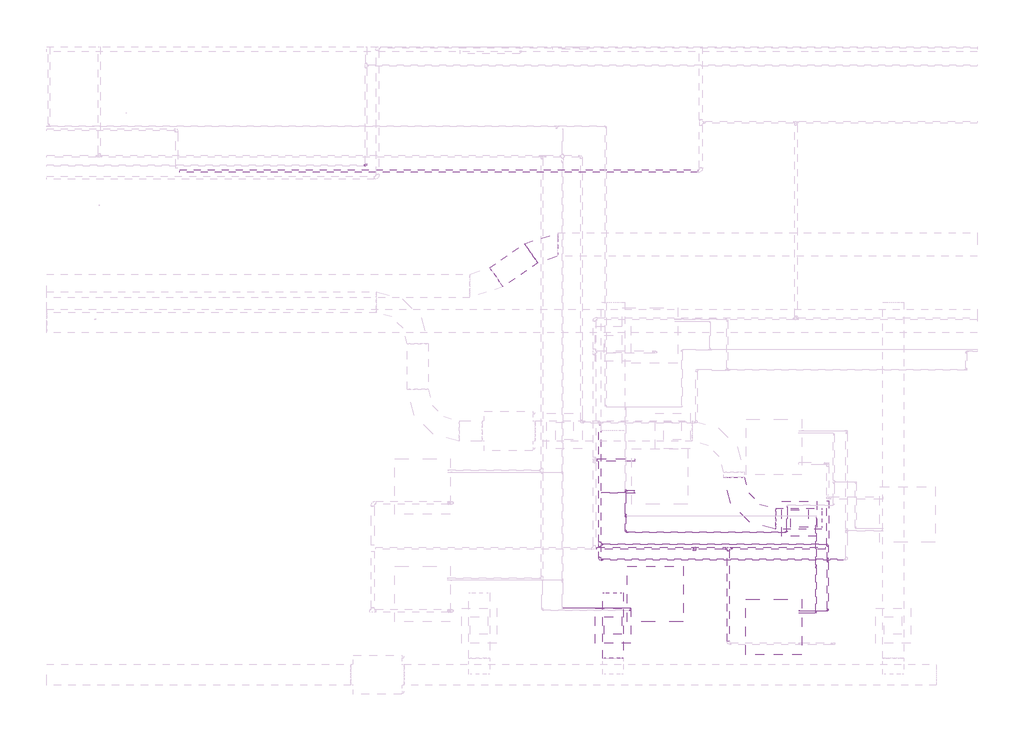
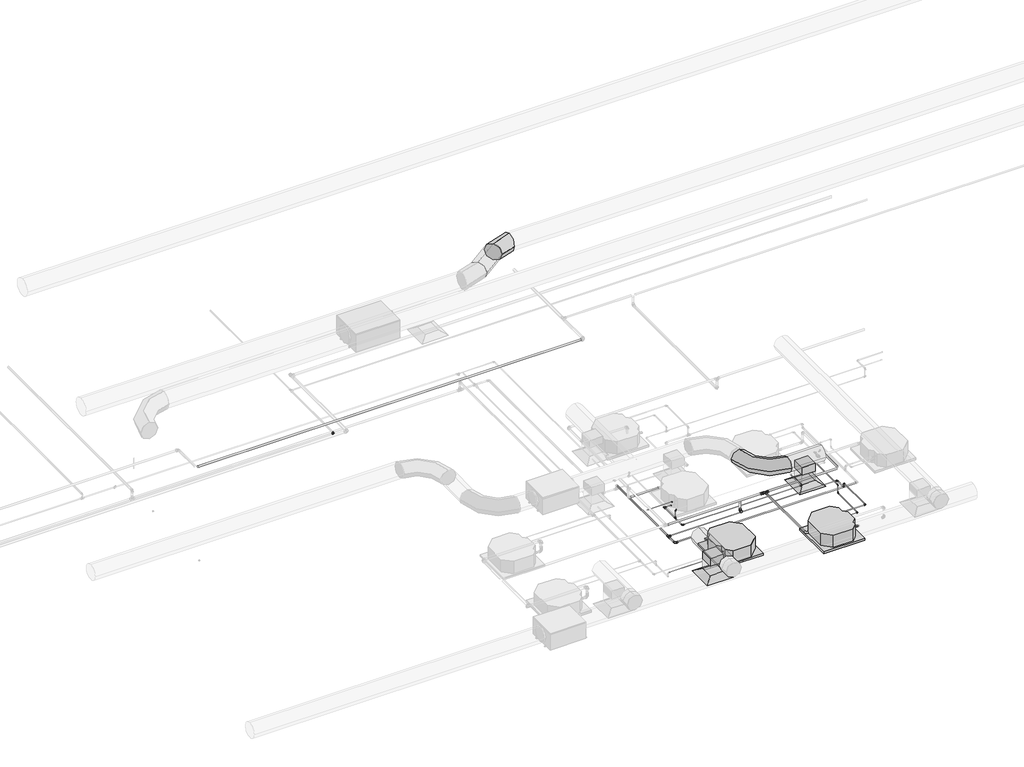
# One storey, part 6 of 21: 31 pipe fittings, 27 pipe segments, 5 duct segments, 4 duct fittings, 2 air terminals, 2 proxies.
"""IFC4 building model written with IfcOpenShell, lengths in millimetres."""

from ifc_helpers import new_model, si_unit, point, frame, frame_2d, origin, place, context, project, spatial, polyline, circle_curve, trimmed, segment, composite_curve, outline, extrude, transform, mapped, element, save
from components import air_terminal_ff221211, mechanical_equipment_53173f38, duct_fitting_550a0fe9, duct_fitting_2_d_f5f09e9f, duct_fitting_2_d_8456317d, pipe_fitting_0ad7e8bf, pipe_fitting_3e2a63ee, pipe_fitting_83e925b4, pipe_fitting_ec53ccd8, pipe_fitting_d7de274c, pipe_fitting_089e84c0, pipe_fitting_1806753b, pipe_fitting_e11027af, pipe_fitting_9b3d5eb9, pipe_fitting_442ec1e9, pipe_fitting_639c0f04, pipe_fitting_c900cfc2, pipe_fitting_16c020f5, pipe_fitting_b10472de, pipe_fitting_59d1f3e3, pipe_fitting_648138cd, pipe_fitting_b0e77d1d, pipe_fitting_c180495a, pipe_fitting_3e80353c, pipe_fitting_cbda5a7c

model = new_model("IFC4")

# Units and contexts
model_context = context("Model", 3, world=origin())
ifc_project = project(units=[si_unit("LENGTHUNIT", "METRE", prefix="MILLI")], contexts=[model_context])

# Site, building, storey
site = spatial("IfcSite", under=ifc_project)
building = spatial("IfcBuilding", under=site)
storey = spatial("IfcBuildingStorey", under=building, Name="Nível 1", Elevation=0.0)

# Air terminals
placement = place(None, origin())
air_terminal_shape = air_terminal_ff221211(model_context)
element("IfcAirTerminal", 1, ObjectType="M_Difusor de retorno : 600 x 600 Face 300 x 300 Conexão", at=placement, inside=storey, context=model_context, shape_type="MappedRepresentation", body=[
    mapped(air_terminal_shape, transform((11475.4372644, -6043.7697994, 3000.0), x_axis=(0.0, -1.0, 0.0), y_axis=(1.0, 0.0, 0.0), z_axis=(0.0, 0.0, 1.0))),
])
element("IfcAirTerminal", 2, ObjectType="M_Difusor de fornecimento : 600 x 600 Face 300 x 300 Conexão", at=placement, inside=storey, context=model_context, shape_type="MappedRepresentation", body=[
    mapped(air_terminal_shape, transform((8288.7294152, -7871.8680027, 3000.0), x_axis=(1.0, 0.0, 0.0), y_axis=(0.0, 1.0, 0.0), z_axis=(0.0, 0.0, 1.0))),
])

# Proxies
mechanical_equipment_shape = mechanical_equipment_53173f38(model_context)
element("IfcBuildingElementProxy", 3, Name="Midea_VRF_Indoor_4-way Cassette_MI-90(100,112,140)Q4_DHN1-D (2nd DC) : MI2-140Q4DHN1", ObjectType="Midea_VRF_Indoor_4-way Cassette_MI-90(100,112,140)Q4_DHN1-D (2nd DC) : MI2-140Q4DHN1", at=placement, inside=storey, context=model_context, shape_type="MappedRepresentation", body=[
    mapped(mechanical_equipment_shape, transform((9011.0193387, -7334.8952411, 3000.4424014), x_axis=(-1.0, 0.0, 0.0), y_axis=(0.0, -1.0, 0.0), z_axis=(0.0, 0.0, 1.0))),
])
element("IfcBuildingElementProxy", 4, Name="Midea_VRF_Indoor_4-way Cassette_MI-90(100,112,140)Q4_DHN1-D (2nd DC) : MI2-140Q4DHN1", ObjectType="Midea_VRF_Indoor_4-way Cassette_MI-90(100,112,140)Q4_DHN1-D (2nd DC) : MI2-140Q4DHN1", at=placement, inside=storey, context=model_context, shape_type="MappedRepresentation", body=[
    mapped(mechanical_equipment_shape, transform((11036.5680522, -7895.0008917, 3000.0), x_axis=(1.0, 0.0, 0.0), y_axis=(0.0, 1.0, 0.0), z_axis=(0.0, 0.0, 1.0))),
])

# Duct fittings
duct_fitting_shape = duct_fitting_550a0fe9(model_context)
element("IfcDuctFitting", 5, ObjectType="M_Encaixe de duto retangular : Padrão", at=placement, inside=storey, context=model_context, shape_type="MappedRepresentation", body=[
    mapped(duct_fitting_shape, transform((11475.4372644, -6043.7697994, 3427.5), x_axis=(0.0, 0.0, -1.0), y_axis=(-1.0, 0.0, 0.0), z_axis=(0.0, 1.0, 0.0))),
])
element("IfcDuctFitting", 6, ObjectType="M_Encaixe de duto retangular : Padrão", at=placement, inside=storey, context=model_context, shape_type="MappedRepresentation", body=[
    mapped(duct_fitting_shape, transform((8288.7294152, -7871.8680027, 3427.5), x_axis=(0.0, 0.0, -1.0), y_axis=(0.0, -1.0, 0.0), z_axis=(-1.0, 0.0, 0.0))),
])
duct_fitting_2_d_shape = duct_fitting_2_d_f5f09e9f(model_context)
element("IfcDuctFitting", 7, ObjectType="M_Cotovelo redondo : 2 D", at=placement, inside=storey, context=model_context, shape_type="MappedRepresentation", body=[
    mapped(duct_fitting_2_d_shape, transform((7094.2077756, -1359.3889752, 7501.0), x_axis=(-1.0, 0.0, 0.0), y_axis=(0.0, -1.0, 0.0), z_axis=(0.0, 0.0, 1.0))),
])
duct_fitting_2_d_2_shape = duct_fitting_2_d_8456317d(model_context)
element("IfcDuctFitting", 8, ObjectType="M_Cotovelo redondo : 2 D", at=placement, inside=storey, context=model_context, shape_type="MappedRepresentation", body=[
    mapped(duct_fitting_2_d_2_shape, transform((10357.1156645, -6043.7697994, 3605.0), x_axis=(0.0, -1.0, 0.0), y_axis=(1.0, 0.0, 0.0), z_axis=(0.0, 0.0, 1.0))),
])

# Duct segments
element("IfcDuctSegment", 9, ObjectType="Torneiras / Raio curto", at=placement, inside=storey, context=model_context, shape_type="SweptSolid", body=[
    extrude(outline(composite_curve([segment(trimmed(circle_curve(frame_2d((-6043.7697994, 3605.0)), 177.5), [point((-6221.2697994, 3605.0))], [point((-6043.7697994, 3782.5))], False, "CARTESIAN"), True, "CONTINUOUS"), segment(trimmed(circle_curve(frame_2d((-6043.7697994, 3605.0)), 177.5), [point((-6043.7697994, 3782.5))], [point((-5866.2697994, 3605.0))], False, "CARTESIAN"), True, "CONTINUOUS"), segment(trimmed(circle_curve(frame_2d((-6043.7697994, 3605.0)), 177.5), [point((-5866.2697994, 3605.0))], [point((-6043.7697994, 3427.5))], False, "CARTESIAN"), True, "CONTINUOUS"), segment(trimmed(circle_curve(frame_2d((-6043.7697994, 3605.0)), 177.5), [point((-6043.7697994, 3427.5))], [point((-6221.2697994, 3605.0))], False, "CARTESIAN"), True, "CONTINUOUS")], self_intersect=False)), frame((11067.1156645, 0.0, 0.0), z_axis=(1.0, 0.0, 0.0), x_axis=(0.0, 1.0, 0.0)), (0.0, 0.0, 1.0), 790.0),
])
element("IfcDuctSegment", 10, ObjectType="Torneiras / Raio curto", at=placement, inside=storey, context=model_context, shape_type="SweptSolid", body=[
    extrude(outline(composite_curve([segment(trimmed(circle_curve(frame_2d((3605.0, 8288.7294152)), 177.5), [point((3605.0, 8466.2294152))], [point((3782.5, 8288.7294152))], False, "CARTESIAN"), True, "CONTINUOUS"), segment(trimmed(circle_curve(frame_2d((3605.0, 8288.7294152)), 177.5), [point((3782.5, 8288.7294152))], [point((3605.0, 8111.2294152))], False, "CARTESIAN"), True, "CONTINUOUS"), segment(trimmed(circle_curve(frame_2d((3605.0, 8288.7294152)), 177.5), [point((3605.0, 8111.2294152))], [point((3427.5, 8288.7294152))], False, "CARTESIAN"), True, "CONTINUOUS"), segment(trimmed(circle_curve(frame_2d((3605.0, 8288.7294152)), 177.5), [point((3427.5, 8288.7294152))], [point((3605.0, 8466.2294152))], False, "CARTESIAN"), True, "CONTINUOUS")], self_intersect=False)), frame((0.0, -8432.3180027, 0.0), z_axis=(0.0, 1.0, 0.0), x_axis=(0.0, 0.0, 1.0)), (0.0, 0.0, 1.0), 1120.9),
])
element("IfcDuctSegment", 11, ObjectType="Raios cotovelos / torneiras", at=placement, inside=storey, context=model_context, shape_type="SweptSolid", body=[
    extrude(outline(polyline([(11625.4372644, -6193.7697994), (11325.4372644, -6193.7697994), (11325.4372644, -5893.7697994), (11625.4372644, -5893.7697994), (11625.4372644, -6193.7697994)])), frame((0.0, 0.0, 3101.6), z_axis=(0.0, 0.0, 1.0), x_axis=(1.0, 0.0, 0.0)), (0.0, 0.0, 1.0), 224.3),
])
element("IfcDuctSegment", 12, ObjectType="Raios cotovelos / torneiras", at=placement, inside=storey, context=model_context, shape_type="SweptSolid", body=[
    extrude(outline(polyline([(8438.7294152, -7721.8680027), (8438.7294152, -8021.8680027), (8138.7294152, -8021.8680027), (8138.7294152, -7721.8680027), (8438.7294152, -7721.8680027)])), frame((0.0, 0.0, 3101.6), z_axis=(0.0, 0.0, 1.0), x_axis=(1.0, 0.0, 0.0)), (0.0, 0.0, 1.0), 224.3),
])
element("IfcDuctSegment", 13, ObjectType="Torneiras / Raio curto", at=placement, inside=storey, context=model_context, shape_type="SweptSolid", body=[
    extrude(outline(composite_curve([segment(trimmed(circle_curve(frame_2d((0.0, -200.0)), 200.0), [point((-200.0, -200.0))], [point((0.0, 0.0))], False, "CARTESIAN"), True, "CONTINUOUS"), segment(trimmed(circle_curve(frame_2d((0.0, -200.0)), 200.0), [point((0.0, 0.0))], [point((200.0, -200.0))], False, "CARTESIAN"), True, "CONTINUOUS"), segment(trimmed(circle_curve(frame_2d((0.0, -200.0)), 200.0), [point((200.0, -200.0))], [point((0.0, -400.0))], False, "CARTESIAN"), True, "CONTINUOUS"), segment(trimmed(circle_curve(frame_2d((0.0, -200.0)), 200.0), [point((0.0, -400.0))], [point((-200.0, -200.0))], False, "CARTESIAN"), True, "CONTINUOUS")], self_intersect=False)), frame((6296.8318323, -1917.7176215, 7301.0), z_axis=(0.8191520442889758, 0.5735764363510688, 0.0), x_axis=(0.5735764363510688, -0.8191520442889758, 0.0)), (0.0, 0.0, 1.0), 721.1772582),
])

# Pipe fittings
pipe_fitting_shape = pipe_fitting_0ad7e8bf(model_context)
element("IfcPipeFitting", 14, ObjectType="Cotovelo - Soldado - CU : Padrão", at=placement, inside=storey, context=model_context, shape_type="MappedRepresentation", body=[
    mapped(pipe_fitting_shape, transform((8062.5318023, -6742.208828, 3152.3), x_axis=(0.0, -1.0, 0.0), y_axis=(1.0, 0.0, 0.0), z_axis=(0.0, 0.0, 1.0))),
])
pipe_fitting_2_shape = pipe_fitting_3e2a63ee(model_context)
element("IfcPipeFitting", 15, ObjectType="Tê - Soldado - CU : Padrão", at=placement, inside=storey, context=model_context, shape_type="MappedRepresentation", body=[
    mapped(pipe_fitting_2_shape, transform((10262.7783643, -6549.8952412, 3499.9970882), x_axis=(-0.9999999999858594, 0.0, 5.317997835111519e-06), y_axis=(0.0, 1.0, 0.0), z_axis=(-5.317997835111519e-06, 0.0, -0.9999999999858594))),
])
pipe_fitting_3_shape = pipe_fitting_83e925b4(model_context)
element("IfcPipeFitting", 16, ObjectType="Cotovelo - PVC - CW : Padrão", at=placement, inside=storey, context=model_context, shape_type="MappedRepresentation", body=[
    mapped(pipe_fitting_3_shape, transform((9683.5113973, -6549.8952409, 3252.3135689), x_axis=(0.0, 0.9999999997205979, -2.3639036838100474e-05), y_axis=(0.0, 2.3639036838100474e-05, 0.9999999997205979), z_axis=(1.0, 0.0, 0.0))),
])
pipe_fitting_4_shape = pipe_fitting_ec53ccd8(model_context)
element("IfcPipeFitting", 17, ObjectType="Bucha de redução reta - Soldada - CU : Padrão", at=placement, inside=storey, context=model_context, shape_type="MappedRepresentation", body=[
    mapped(pipe_fitting_4_shape, transform((10309.5283643, -6549.8952412, 3499.9968396), x_axis=(0.9999999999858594, 0.0, -5.317997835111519e-06), y_axis=(0.0, 1.0, 0.0), z_axis=(5.317997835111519e-06, 0.0, 0.9999999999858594))),
])
pipe_fitting_5_shape = pipe_fitting_d7de274c(model_context)
element("IfcPipeFitting", 18, ObjectType="Redutor de acoplamento - PVC - CW : Padrão", at=placement, inside=storey, context=model_context, shape_type="MappedRepresentation", body=[
    mapped(pipe_fitting_5_shape, transform((10216.0283643, -6549.8952412, 3499.9973368), x_axis=(-0.9999999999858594, 0.0, 5.317997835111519e-06), y_axis=(0.0, -1.0, 0.0), z_axis=(5.317997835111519e-06, 0.0, 0.9999999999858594))),
])
pipe_fitting_6_shape = pipe_fitting_089e84c0(model_context)
element("IfcPipeFitting", 19, ObjectType="Bucha de redução reta - Soldada - CU : Padrão", at=placement, inside=storey, context=model_context, shape_type="MappedRepresentation", body=[
    mapped(pipe_fitting_6_shape, transform((11761.5680489, -7631.1925198, 3146.8), x_axis=(0.0, 1.0, 0.0), y_axis=(-0.9999999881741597, 0.0, 0.00015379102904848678), z_axis=(0.00015379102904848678, 0.0, 0.9999999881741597))),
])
pipe_fitting_7_shape = pipe_fitting_1806753b(model_context)
element("IfcPipeFitting", 20, ObjectType="Cotovelo - Soldado - CU : Padrão", at=placement, inside=storey, context=model_context, shape_type="MappedRepresentation", body=[
    mapped(pipe_fitting_7_shape, transform((4067.8281628, -7.8240222, 3146.8), x_axis=(1.0, 0.0, 0.0), y_axis=(0.0, 1.0, 0.0), z_axis=(0.0, 0.0, 1.0))),
])
pipe_fitting_8_shape = pipe_fitting_e11027af(model_context)
element("IfcPipeFitting", 21, ObjectType="Tê - Soldado - CU : Padrão", at=placement, inside=storey, context=model_context, shape_type="MappedRepresentation", body=[
    mapped(pipe_fitting_8_shape, transform((8062.5318023, -6481.790078, 3152.3), x_axis=(0.0, 1.0, 0.0), y_axis=(-1.0, 0.0, 0.0), z_axis=(0.0, 0.0, 1.0))),
])
pipe_fitting_9_shape = pipe_fitting_9b3d5eb9(model_context)
element("IfcPipeFitting", 22, ObjectType="Bucha de redução reta - Soldada - CU : Padrão", at=placement, inside=storey, context=model_context, shape_type="MappedRepresentation", body=[
    mapped(pipe_fitting_9_shape, transform((8531.5104047, -6273.9203916, 3146.8), x_axis=(1.0, 0.0, 0.0), y_axis=(0.0, 1.0, 0.0), z_axis=(0.0, 0.0, 1.0))),
])
pipe_fitting_10_shape = pipe_fitting_442ec1e9(model_context)
element("IfcPipeFitting", 23, ObjectType="Bucha de redução reta - Soldada - CU : Padrão", at=placement, inside=storey, context=model_context, shape_type="MappedRepresentation", body=[
    mapped(pipe_fitting_10_shape, transform((8102.9793023, -6481.790078, 3152.3), x_axis=(1.0, 0.0, 0.0), y_axis=(0.0, 1.0, 0.0), z_axis=(0.0, 0.0, 1.0))),
])
pipe_fitting_11_shape = pipe_fitting_639c0f04(model_context)
element("IfcPipeFitting", 24, ObjectType="Bucha de redução reta - Soldada - CU : Padrão", at=placement, inside=storey, context=model_context, shape_type="MappedRepresentation", body=[
    mapped(pipe_fitting_11_shape, transform((8103.8968023, -6742.208828, 3152.3), x_axis=(1.0, 0.0, 0.0), y_axis=(0.0, 1.0, 0.0), z_axis=(0.0, 0.0, 1.0))),
])
pipe_fitting_12_shape = pipe_fitting_c900cfc2(model_context)
element("IfcPipeFitting", 25, ObjectType="Bucha de redução reta - Soldada - CU : Padrão", at=placement, inside=storey, context=model_context, shape_type="MappedRepresentation", body=[
    mapped(pipe_fitting_12_shape, transform((8586.0193387, -7608.1060547, 3252.3085101), x_axis=(-1.0, 0.0, 0.0), y_axis=(0.0, -1.0, 0.0), z_axis=(0.0, 0.0, 1.0))),
])
element("IfcPipeFitting", 26, ObjectType="Bucha de redução reta - Soldada - CU : Padrão", at=placement, inside=storey, context=model_context, shape_type="MappedRepresentation", body=[
    mapped(pipe_fitting_12_shape, transform((8662.5318022, -5598.7799626, 3252.3085101), x_axis=(-1.0, 0.0, 0.0), y_axis=(0.0, -1.0, 0.0), z_axis=(0.0, 0.0, 1.0))),
])
element("IfcPipeFitting", 27, ObjectType="Bucha de redução reta - Soldada - CU : Padrão", at=placement, inside=storey, context=model_context, shape_type="MappedRepresentation", body=[
    mapped(pipe_fitting_12_shape, transform((11461.5680522, -7621.790078, 3252.3085101), x_axis=(1.0, 0.0, 0.0), y_axis=(0.0, 1.0, 0.0), z_axis=(0.0, 0.0, 1.0))),
])
pipe_fitting_13_shape = pipe_fitting_16c020f5(model_context)
element("IfcPipeFitting", 28, ObjectType="Cotovelo - Soldado - CU : Padrão", at=placement, inside=storey, context=model_context, shape_type="MappedRepresentation", body=[
    mapped(pipe_fitting_13_shape, transform((11961.5680521, -6481.790078, 3152.3), x_axis=(0.0, 1.0, 0.0), y_axis=(-1.0, 0.0, 0.0), z_axis=(0.0, 0.0, 1.0))),
])
element("IfcPipeFitting", 29, ObjectType="Cotovelo - Soldado - CU : Padrão", at=placement, inside=storey, context=model_context, shape_type="MappedRepresentation", body=[
    mapped(pipe_fitting_13_shape, transform((11961.5680521, -6751.657428, 3152.3), x_axis=(0.0, -1.0, 0.0), y_axis=(0.0, 0.0, 1.0), z_axis=(-1.0, 0.0, 0.0))),
])
element("IfcPipeFitting", 30, ObjectType="Cotovelo - Soldado - CU : Padrão", at=placement, inside=storey, context=model_context, shape_type="MappedRepresentation", body=[
    mapped(pipe_fitting_13_shape, transform((11961.5680521, -7621.790078, 3252.3), x_axis=(0.9999999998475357, 0.0, -1.7462211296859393e-05), y_axis=(0.0, 1.0000000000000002, 0.0), z_axis=(1.7462211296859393e-05, 0.0, 0.9999999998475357))),
])
element("IfcPipeFitting", 31, ObjectType="Cotovelo - Soldado - CU : Padrão", at=placement, inside=storey, context=model_context, shape_type="MappedRepresentation", body=[
    mapped(pipe_fitting_13_shape, transform((11961.5680521, -6751.657428, 3252.3), x_axis=(0.0, 0.0, 1.0), y_axis=(0.0, -1.0, 0.0), z_axis=(1.0, 0.0, 0.0))),
])
element("IfcPipeFitting", 32, ObjectType="Cotovelo - Soldado - CU : Padrão", at=placement, inside=storey, context=model_context, shape_type="MappedRepresentation", body=[
    mapped(pipe_fitting_13_shape, transform((8502.5318047, -6273.9203916, 3146.8), x_axis=(0.0, -1.0, 0.0), y_axis=(1.0, 0.0, 0.0), z_axis=(0.0, 0.0, 1.0))),
])
pipe_fitting_14_shape = pipe_fitting_b10472de(model_context)
element("IfcPipeFitting", 33, ObjectType="Tê - Soldado - CU : Padrão", at=placement, inside=storey, context=model_context, shape_type="MappedRepresentation", body=[
    mapped(pipe_fitting_14_shape, transform((8502.5318047, -5995.5925198, 3146.8), x_axis=(0.0, 1.0, 0.0), y_axis=(0.0, 0.0, -1.0), z_axis=(-1.0, 0.0, 0.0))),
])
element("IfcPipeFitting", 34, ObjectType="Tê - Soldado - CU : Padrão", at=placement, inside=storey, context=model_context, shape_type="MappedRepresentation", body=[
    mapped(pipe_fitting_14_shape, transform((8502.5318047, -5564.9775208, 3146.8), x_axis=(0.0, 1.0, 0.0), y_axis=(-0.9999999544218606, 0.0, -0.0003019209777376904), z_axis=(-0.0003019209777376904, 0.0, 0.9999999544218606))),
])
pipe_fitting_15_shape = pipe_fitting_59d1f3e3(model_context)
element("IfcPipeFitting", 35, ObjectType="Bucha de redução reta - Soldada - CU : Padrão", at=placement, inside=storey, context=model_context, shape_type="MappedRepresentation", body=[
    mapped(pipe_fitting_15_shape, transform((8662.5318022, -5564.9775208, 3146.8446487), x_axis=(-1.0, 0.0, 0.0), y_axis=(0.0, -1.0, 0.0), z_axis=(0.0, 0.0, 1.0))),
])
pipe_fitting_16_shape = pipe_fitting_648138cd(model_context)
element("IfcPipeFitting", 36, ObjectType="Cotovelo - Soldado - CU : Padrão", at=placement, inside=storey, context=model_context, shape_type="MappedRepresentation", body=[
    mapped(pipe_fitting_16_shape, transform((11761.5680489, -6855.5925198, 3146.8), x_axis=(0.0, 1.0, 0.0), y_axis=(0.0, 0.0, 1.0), z_axis=(1.0, 0.0, 0.0))),
])
element("IfcPipeFitting", 37, ObjectType="Cotovelo - Soldado - CU : Padrão", at=placement, inside=storey, context=model_context, shape_type="MappedRepresentation", body=[
    mapped(pipe_fitting_16_shape, transform((11761.5680489, -6855.5925198, 3346.8), x_axis=(0.0, 0.0, 1.0), y_axis=(0.0, 1.0, 0.0), z_axis=(-1.0, 0.0, 0.0))),
])
element("IfcPipeFitting", 38, ObjectType="Cotovelo - Soldado - CU : Padrão", at=placement, inside=storey, context=model_context, shape_type="MappedRepresentation", body=[
    mapped(pipe_fitting_16_shape, transform((8502.5318047, -5995.5925198, 3346.8), x_axis=(0.0, 0.0, 1.0), y_axis=(1.0, 0.0, 0.0), z_axis=(0.0, 1.0, 0.0))),
])
pipe_fitting_17_shape = pipe_fitting_b0e77d1d(model_context)
element("IfcPipeFitting", 39, ObjectType="Bucha de redução reta - Soldada - CU : Padrão", at=placement, inside=storey, context=model_context, shape_type="MappedRepresentation", body=[
    mapped(pipe_fitting_17_shape, transform((8586.0193387, -7574.3036129, 3147.2870501), x_axis=(-1.0, 0.0, 0.0), y_axis=(0.0, -1.0, 0.0), z_axis=(0.0, 0.0, 1.0))),
])
element("IfcPipeFitting", 40, ObjectType="Bucha de redução reta - Soldada - CU : Padrão", at=placement, inside=storey, context=model_context, shape_type="MappedRepresentation", body=[
    mapped(pipe_fitting_17_shape, transform((11461.5680522, -7655.5925198, 3146.8446487), x_axis=(1.0, 0.0, 0.0), y_axis=(0.0, 1.0, 0.0), z_axis=(0.0, 0.0, 1.0))),
])
pipe_fitting_18_shape = pipe_fitting_c180495a(model_context)
element("IfcPipeFitting", 41, ObjectType="Cotovelo - Soldado - CU : Padrão", at=placement, inside=storey, context=model_context, shape_type="MappedRepresentation", body=[
    mapped(pipe_fitting_18_shape, transform((11761.5680489, -7655.5925198, 3146.8), x_axis=(0.9999999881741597, 0.0, -0.00015379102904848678), y_axis=(0.0, 1.0000000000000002, 0.0), z_axis=(0.00015379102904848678, 0.0, 0.9999999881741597))),
])
pipe_fitting_19_shape = pipe_fitting_3e80353c(model_context)
element("IfcPipeFitting", 42, ObjectType="Cotovelo - Soldado - CU : Padrão", at=placement, inside=storey, context=model_context, shape_type="MappedRepresentation", body=[
    mapped(pipe_fitting_19_shape, transform((11262.5318047, -6273.9203916, 3146.8), x_axis=(1.0, 0.0, 0.0), y_axis=(0.0, 1.0, 0.0), z_axis=(0.0, 0.0, 1.0))),
])
pipe_fitting_20_shape = pipe_fitting_cbda5a7c(model_context)
element("IfcPipeFitting", 43, ObjectType="Bucha de redução reta - Soldada - CU : Padrão", at=placement, inside=storey, context=model_context, shape_type="MappedRepresentation", body=[
    mapped(pipe_fitting_20_shape, transform((8502.5318047, -5995.5925198, 3174.3847), x_axis=(0.0, 0.0, 1.0), y_axis=(0.0, 1.0, 0.0), z_axis=(-1.0, 0.0, 0.0))),
])
element("IfcPipeFitting", 44, ObjectType="Bucha de redução reta - Soldada - CU : Padrão", at=placement, inside=storey, context=model_context, shape_type="MappedRepresentation", body=[
    mapped(pipe_fitting_20_shape, transform((8530.1165035, -5564.9775208, 3146.8083284), x_axis=(0.9999999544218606, 0.0, 0.0003019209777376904), y_axis=(0.0, 1.0000000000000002, 0.0), z_axis=(-0.0003019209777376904, 0.0, 0.9999999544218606))),
])

# Pipe segments
element("IfcPipeSegment", 45, ObjectType="Plástico", at=placement, inside=storey, context=model_context, shape_type="SweptSolid", body=[
    extrude(outline(composite_curve([segment(trimmed(circle_curve(frame_2d((0.0, -25.0)), 25.0), [point((-25.0, -25.0))], [point((0.0, 0.0))], False, "CARTESIAN"), True, "CONTINUOUS"), segment(trimmed(circle_curve(frame_2d((0.0, -25.0)), 25.0), [point((0.0, 0.0))], [point((25.0, -25.0))], False, "CARTESIAN"), True, "CONTINUOUS"), segment(trimmed(circle_curve(frame_2d((0.0, -25.0)), 25.0), [point((25.0, -25.0))], [point((0.0, -50.0))], False, "CARTESIAN"), True, "CONTINUOUS"), segment(trimmed(circle_curve(frame_2d((0.0, -25.0)), 25.0), [point((0.0, -50.0))], [point((-25.0, -25.0))], False, "CARTESIAN"), True, "CONTINUOUS")], self_intersect=False)), frame((9736.3002901, -98.5799867, 3475.0026347), z_axis=(-0.9999999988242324, 0.0, 4.849263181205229e-05), x_axis=(0.0, 1.0, 0.0)), (0.0, 0.0, 1.0), 8859.6847137),
])
element("IfcPipeSegment", 46, ObjectType="Plástico", at=placement, inside=storey, context=model_context, shape_type="SweptSolid", body=[
    extrude(outline(composite_curve([segment(trimmed(circle_curve(frame_2d((9683.5113973, -6549.8952409)), 20.0), [point((9703.5113973, -6549.8952409))], [point((9683.5113973, -6569.8952409))], False, "CARTESIAN"), True, "CONTINUOUS"), segment(trimmed(circle_curve(frame_2d((9683.5113973, -6549.8952409)), 20.0), [point((9683.5113973, -6569.8952409))], [point((9663.5113973, -6549.8952409))], False, "CARTESIAN"), True, "CONTINUOUS"), segment(trimmed(circle_curve(frame_2d((9683.5113973, -6549.8952409)), 20.0), [point((9663.5113973, -6549.8952409))], [point((9683.5113973, -6529.8952409))], False, "CARTESIAN"), True, "CONTINUOUS"), segment(trimmed(circle_curve(frame_2d((9683.5113973, -6549.8952409)), 20.0), [point((9683.5113973, -6529.8952409))], [point((9703.5113973, -6549.8952409))], False, "CARTESIAN"), True, "CONTINUOUS")], self_intersect=False)), frame((0.0, 0.0, 3297.3141126), z_axis=(0.0, 0.0, 1.0), x_axis=(1.0, 0.0, 0.0)), (0.0, 0.0, 1.0), 157.6858874),
])
element("IfcPipeSegment", 47, ObjectType="Plástico", at=placement, inside=storey, context=model_context, shape_type="SweptSolid", body=[
    extrude(outline(composite_curve([segment(trimmed(circle_curve(frame_2d((0.0, 20.0)), 20.0), [point((-20.0, 20.0))], [point((0.0, 40.0))], False, "CARTESIAN"), True, "CONTINUOUS"), segment(trimmed(circle_curve(frame_2d((0.0, 20.0)), 20.0), [point((0.0, 40.0))], [point((20.0, 20.0))], False, "CARTESIAN"), True, "CONTINUOUS"), segment(trimmed(circle_curve(frame_2d((0.0, 20.0)), 20.0), [point((20.0, 20.0))], [point((0.0, 0.0))], False, "CARTESIAN"), True, "CONTINUOUS"), segment(trimmed(circle_curve(frame_2d((0.0, 20.0)), 20.0), [point((0.0, 0.0))], [point((-20.0, 20.0))], False, "CARTESIAN"), True, "CONTINUOUS")], self_intersect=False)), frame((10329.7684043, -6549.8952412, 3479.9967319), z_axis=(0.9999999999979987, 0.0, 2.0006367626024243e-06), x_axis=(0.0, 1.0, 0.0)), (0.0, 0.0, 1.0), 1587.56),
])
element("IfcPipeSegment", 48, ObjectType="Tubos de cobre HVAC", at=placement, inside=storey, context=model_context, shape_type="SweptSolid", body=[
    extrude(outline(composite_curve([segment(trimmed(circle_curve(frame_2d((3499.9970882, 10262.7783643)), 17.5), [point((3499.9970882, 10245.2783643))], [point((3482.4970882, 10262.7783643))], False, "CARTESIAN"), True, "CONTINUOUS"), segment(trimmed(circle_curve(frame_2d((3499.9970882, 10262.7783643)), 17.5), [point((3482.4970882, 10262.7783643))], [point((3499.9970882, 10280.2783643))], False, "CARTESIAN"), True, "CONTINUOUS"), segment(trimmed(circle_curve(frame_2d((3499.9970882, 10262.7783643)), 17.5), [point((3499.9970882, 10280.2783643))], [point((3517.4970882, 10262.7783643))], False, "CARTESIAN"), True, "CONTINUOUS"), segment(trimmed(circle_curve(frame_2d((3499.9970882, 10262.7783643)), 17.5), [point((3517.4970882, 10262.7783643))], [point((3499.9970882, 10245.2783643))], False, "CARTESIAN"), True, "CONTINUOUS")], self_intersect=False)), frame((0.0, -8138.4008917, 0.0), z_axis=(0.0, 1.0, 0.0), x_axis=(0.0, 0.0, 1.0)), (0.0, 0.0, 1.0), 1543.0056505),
])
element("IfcPipeSegment", 49, ObjectType="Plástico", at=placement, inside=storey, context=model_context, shape_type="SweptSolid", body=[
    extrude(outline(composite_curve([segment(trimmed(circle_curve(frame_2d((0.0, -20.0)), 20.0), [point((-20.0, -20.0))], [point((0.0, 0.0))], False, "CARTESIAN"), True, "CONTINUOUS"), segment(trimmed(circle_curve(frame_2d((0.0, -20.0)), 20.0), [point((0.0, 0.0))], [point((20.0, -20.0))], False, "CARTESIAN"), True, "CONTINUOUS"), segment(trimmed(circle_curve(frame_2d((0.0, -20.0)), 20.0), [point((20.0, -20.0))], [point((0.0, -40.0))], False, "CARTESIAN"), True, "CONTINUOUS"), segment(trimmed(circle_curve(frame_2d((0.0, -20.0)), 20.0), [point((0.0, -40.0))], [point((-20.0, -20.0))], False, "CARTESIAN"), True, "CONTINUOUS")], self_intersect=False)), frame((10161.4622966, -6549.8952412, 3479.997627), z_axis=(-0.9999999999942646, 0.0, 3.3868586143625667e-06), x_axis=(0.0, 1.0, 0.0)), (0.0, 0.0, 1.0), 2147.9747719),
])
element("IfcPipeSegment", 50, ObjectType="Tubos de cobre HVAC", at=placement, inside=storey, context=model_context, shape_type="SweptSolid", body=[
    extrude(outline(composite_curve([segment(trimmed(circle_curve(frame_2d((3500.0, 11962.7783643)), 17.5), [point((3500.0, 11945.2783643))], [point((3482.5, 11962.7783643))], False, "CARTESIAN"), True, "CONTINUOUS"), segment(trimmed(circle_curve(frame_2d((3500.0, 11962.7783643)), 17.5), [point((3482.5, 11962.7783643))], [point((3500.0, 11980.2783643))], False, "CARTESIAN"), True, "CONTINUOUS"), segment(trimmed(circle_curve(frame_2d((3500.0, 11962.7783643)), 17.5), [point((3500.0, 11980.2783643))], [point((3517.5, 11962.7783643))], False, "CARTESIAN"), True, "CONTINUOUS"), segment(trimmed(circle_curve(frame_2d((3500.0, 11962.7783643)), 17.5), [point((3517.5, 11962.7783643))], [point((3500.0, 11945.2783643))], False, "CARTESIAN"), True, "CONTINUOUS")], self_intersect=False)), frame((0.0, -6503.9937412, 0.0), z_axis=(0.0, 1.0, 0.0), x_axis=(0.0, 0.0, 1.0)), (0.0, 0.0, 1.0), 768.7259132),
])
element("IfcPipeSegment", 51, ObjectType="Tubos de cobre HVAC", at=placement, inside=storey, context=model_context, shape_type="SweptSolid", body=[
    extrude(outline(composite_curve([segment(trimmed(circle_curve(frame_2d((0.0, -7.935)), 7.935), [point((-7.935, -7.935))], [point((0.0, 0.0))], False, "CARTESIAN"), True, "CONTINUOUS"), segment(trimmed(circle_curve(frame_2d((0.0, -7.935)), 7.935), [point((0.0, 0.0))], [point((7.935, -7.935))], False, "CARTESIAN"), True, "CONTINUOUS"), segment(trimmed(circle_curve(frame_2d((0.0, -7.935)), 7.935), [point((7.935, -7.935))], [point((0.0, -15.87))], False, "CARTESIAN"), True, "CONTINUOUS"), segment(trimmed(circle_curve(frame_2d((0.0, -7.935)), 7.935), [point((0.0, -15.87))], [point((-7.935, -7.935))], False, "CARTESIAN"), True, "CONTINUOUS")], self_intersect=False)), frame((8091.5105173, -5598.7799626, 3244.3654199), z_axis=(0.9999999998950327, 0.0, 1.448911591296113e-05), x_axis=(0.0, -1.0, 0.0)), (0.0, 0.0, 1.0), 558.3625),
])
element("IfcPipeSegment", 52, ObjectType="Tubos de cobre HVAC", at=placement, inside=storey, context=model_context, shape_type="SweptSolid", body=[
    extrude(outline(composite_curve([segment(trimmed(circle_curve(frame_2d((0.0, -4.76)), 4.76), [point((-4.76, -4.76))], [point((0.0, 0.0))], False, "CARTESIAN"), True, "CONTINUOUS"), segment(trimmed(circle_curve(frame_2d((0.0, -4.76)), 4.76), [point((0.0, 0.0))], [point((4.76, -4.76))], False, "CARTESIAN"), True, "CONTINUOUS"), segment(trimmed(circle_curve(frame_2d((0.0, -4.76)), 4.76), [point((4.76, -4.76))], [point((0.0, -9.52))], False, "CARTESIAN"), True, "CONTINUOUS"), segment(trimmed(circle_curve(frame_2d((0.0, -4.76)), 4.76), [point((0.0, -9.52))], [point((-4.76, -4.76))], False, "CARTESIAN"), True, "CONTINUOUS")], self_intersect=False)), frame((7449.1364906, -7574.3036129, 3142.4868391), z_axis=(0.9999999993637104, 0.0, 3.56732268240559e-05), x_axis=(0.0, -1.0, 0.0)), (0.0, 0.0, 1.0), 1127.2039186),
])
element("IfcPipeSegment", 53, ObjectType="Tubos de cobre HVAC", at=placement, inside=storey, context=model_context, shape_type="SweptSolid", body=[
    extrude(outline(composite_curve([segment(trimmed(circle_curve(frame_2d((0.0, -4.76)), 4.76), [point((-4.76, -4.76))], [point((0.0, 0.0))], False, "CARTESIAN"), True, "CONTINUOUS"), segment(trimmed(circle_curve(frame_2d((0.0, -4.76)), 4.76), [point((0.0, 0.0))], [point((4.76, -4.76))], False, "CARTESIAN"), True, "CONTINUOUS"), segment(trimmed(circle_curve(frame_2d((0.0, -4.76)), 4.76), [point((4.76, -4.76))], [point((0.0, -9.52))], False, "CARTESIAN"), True, "CONTINUOUS"), segment(trimmed(circle_curve(frame_2d((0.0, -4.76)), 4.76), [point((0.0, -9.52))], [point((-4.76, -4.76))], False, "CARTESIAN"), True, "CONTINUOUS")], self_intersect=False)), frame((8539.7923091, -5564.9775208, 3142.0512495), z_axis=(0.9999999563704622, 0.0, 0.0002953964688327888), x_axis=(0.0, -1.0, 0.0)), (0.0, 0.0, 1.0), 113.0665041),
])
element("IfcPipeSegment", 54, ObjectType="Tubos de cobre HVAC", at=placement, inside=storey, context=model_context, shape_type="SweptSolid", body=[
    extrude(outline(composite_curve([segment(trimmed(circle_curve(frame_2d((3146.8, 8502.5318047)), 7.935), [point((3146.8, 8494.5968047))], [point((3138.865, 8502.5318047))], False, "CARTESIAN"), True, "CONTINUOUS"), segment(trimmed(circle_curve(frame_2d((3146.8, 8502.5318047)), 7.935), [point((3138.865, 8502.5318047))], [point((3146.8, 8510.4668047))], False, "CARTESIAN"), True, "CONTINUOUS"), segment(trimmed(circle_curve(frame_2d((3146.8, 8502.5318047)), 7.935), [point((3146.8, 8510.4668047))], [point((3154.735, 8502.5318047))], False, "CARTESIAN"), True, "CONTINUOUS"), segment(trimmed(circle_curve(frame_2d((3146.8, 8502.5318047)), 7.935), [point((3154.735, 8502.5318047))], [point((3146.8, 8494.5968047))], False, "CARTESIAN"), True, "CONTINUOUS")], self_intersect=False)), frame((0.0, -6244.9417916, 0.0), z_axis=(0.0, 1.0, 0.0), x_axis=(0.0, 0.0, 1.0)), (0.0, 0.0, 1.0), 221.7139218),
])
element("IfcPipeSegment", 55, ObjectType="Tubos de cobre HVAC", at=placement, inside=storey, context=model_context, shape_type="SweptSolid", body=[
    extrude(outline(composite_curve([segment(trimmed(circle_curve(frame_2d((0.0, -7.935)), 7.935), [point((-7.935, -7.935))], [point((0.0, 0.0))], False, "CARTESIAN"), True, "CONTINUOUS"), segment(trimmed(circle_curve(frame_2d((0.0, -7.935)), 7.935), [point((0.0, 0.0))], [point((7.935, -7.935))], False, "CARTESIAN"), True, "CONTINUOUS"), segment(trimmed(circle_curve(frame_2d((0.0, -7.935)), 7.935), [point((7.935, -7.935))], [point((0.0, -15.87))], False, "CARTESIAN"), True, "CONTINUOUS"), segment(trimmed(circle_curve(frame_2d((0.0, -7.935)), 7.935), [point((0.0, -15.87))], [point((-7.935, -7.935))], False, "CARTESIAN"), True, "CONTINUOUS")], self_intersect=False)), frame((11932.5893136, -7621.790078, 3244.365506), z_axis=(-0.9999999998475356, 0.0, 1.7462211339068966e-05), x_axis=(0.0, 1.0, 0.0)), (0.0, 0.0, 1.0), 458.3625),
])
element("IfcPipeSegment", 56, ObjectType="Tubos de cobre HVAC", at=placement, inside=storey, context=model_context, shape_type="SweptSolid", body=[
    extrude(outline(composite_curve([segment(trimmed(circle_curve(frame_2d((3152.3, 11961.5680521)), 7.935), [point((3152.3, 11969.5030521))], [point((3160.235, 11961.5680521))], False, "CARTESIAN"), True, "CONTINUOUS"), segment(trimmed(circle_curve(frame_2d((3152.3, 11961.5680521)), 7.935), [point((3160.235, 11961.5680521))], [point((3152.3, 11953.6330521))], False, "CARTESIAN"), True, "CONTINUOUS"), segment(trimmed(circle_curve(frame_2d((3152.3, 11961.5680521)), 7.935), [point((3152.3, 11953.6330521))], [point((3144.365, 11961.5680521))], False, "CARTESIAN"), True, "CONTINUOUS"), segment(trimmed(circle_curve(frame_2d((3152.3, 11961.5680521)), 7.935), [point((3144.365, 11961.5680521))], [point((3152.3, 11969.5030521))], False, "CARTESIAN"), True, "CONTINUOUS")], self_intersect=False)), frame((0.0, -6722.678828, 0.0), z_axis=(0.0, 1.0, 0.0), x_axis=(0.0, 0.0, 1.0)), (0.0, 0.0, 1.0), 211.91015),
])
element("IfcPipeSegment", 57, ObjectType="Tubos de cobre HVAC", at=placement, inside=storey, context=model_context, shape_type="SweptSolid", body=[
    extrude(outline(composite_curve([segment(trimmed(circle_curve(frame_2d((-6481.790078, 3152.3)), 7.935), [point((-6473.855078, 3152.3))], [point((-6481.790078, 3144.365))], False, "CARTESIAN"), True, "CONTINUOUS"), segment(trimmed(circle_curve(frame_2d((-6481.790078, 3152.3)), 7.935), [point((-6481.790078, 3144.365))], [point((-6489.725078, 3152.3))], False, "CARTESIAN"), True, "CONTINUOUS"), segment(trimmed(circle_curve(frame_2d((-6481.790078, 3152.3)), 7.935), [point((-6489.725078, 3152.3))], [point((-6481.790078, 3160.235))], False, "CARTESIAN"), True, "CONTINUOUS"), segment(trimmed(circle_curve(frame_2d((-6481.790078, 3152.3)), 7.935), [point((-6481.790078, 3160.235))], [point((-6473.855078, 3152.3))], False, "CARTESIAN"), True, "CONTINUOUS")], self_intersect=False)), frame((8115.6382023, 0.0, 0.0), z_axis=(1.0, 0.0, 0.0), x_axis=(0.0, 1.0, 0.0)), (0.0, 0.0, 1.0), 3816.9512498),
])
element("IfcPipeSegment", 58, ObjectType="Tubos de cobre HVAC", at=placement, inside=storey, context=model_context, shape_type="SweptSolid", body=[
    extrude(outline(composite_curve([segment(trimmed(circle_curve(frame_2d((3152.3, 8062.5318023)), 15.875), [point((3152.3, 8046.6568023))], [point((3136.425, 8062.5318023))], False, "CARTESIAN"), True, "CONTINUOUS"), segment(trimmed(circle_curve(frame_2d((3152.3, 8062.5318023)), 15.875), [point((3136.425, 8062.5318023))], [point((3152.3, 8078.4068023))], False, "CARTESIAN"), True, "CONTINUOUS"), segment(trimmed(circle_curve(frame_2d((3152.3, 8062.5318023)), 15.875), [point((3152.3, 8078.4068023))], [point((3168.175, 8062.5318023))], False, "CARTESIAN"), True, "CONTINUOUS"), segment(trimmed(circle_curve(frame_2d((3152.3, 8062.5318023)), 15.875), [point((3168.175, 8062.5318023))], [point((3152.3, 8046.6568023))], False, "CARTESIAN"), True, "CONTINUOUS")], self_intersect=False)), frame((0.0, -6700.843828, 0.0), z_axis=(0.0, 1.0, 0.0), x_axis=(0.0, 0.0, 1.0)), (0.0, 0.0, 1.0), 178.635),
])
element("IfcPipeSegment", 59, ObjectType="Tubos de cobre HVAC", at=placement, inside=storey, context=model_context, shape_type="SweptSolid", body=[
    extrude(outline(composite_curve([segment(trimmed(circle_curve(frame_2d((3152.3, 8062.5318023)), 15.875), [point((3152.3, 8046.6568023))], [point((3136.425, 8062.5318023))], False, "CARTESIAN"), True, "CONTINUOUS"), segment(trimmed(circle_curve(frame_2d((3152.3, 8062.5318023)), 15.875), [point((3136.425, 8062.5318023))], [point((3152.3, 8078.4068023))], False, "CARTESIAN"), True, "CONTINUOUS"), segment(trimmed(circle_curve(frame_2d((3152.3, 8062.5318023)), 15.875), [point((3152.3, 8078.4068023))], [point((3168.175, 8062.5318023))], False, "CARTESIAN"), True, "CONTINUOUS"), segment(trimmed(circle_curve(frame_2d((3152.3, 8062.5318023)), 15.875), [point((3168.175, 8062.5318023))], [point((3152.3, 8046.6568023))], False, "CARTESIAN"), True, "CONTINUOUS")], self_intersect=False)), frame((0.0, -6441.371328, 0.0), z_axis=(0.0, 1.0, 0.0), x_axis=(0.0, 0.0, 1.0)), (0.0, 0.0, 1.0), 2000.9538654),
])
element("IfcPipeSegment", 60, ObjectType="Tubos de cobre HVAC", at=placement, inside=storey, context=model_context, shape_type="SweptSolid", body=[
    extrude(outline(composite_curve([segment(trimmed(circle_curve(frame_2d((-6742.208828, 3152.3)), 12.7), [point((-6754.908828, 3152.3))], [point((-6742.208828, 3165.0))], False, "CARTESIAN"), True, "CONTINUOUS"), segment(trimmed(circle_curve(frame_2d((-6742.208828, 3152.3)), 12.7), [point((-6742.208828, 3165.0))], [point((-6729.508828, 3152.3))], False, "CARTESIAN"), True, "CONTINUOUS"), segment(trimmed(circle_curve(frame_2d((-6742.208828, 3152.3)), 12.7), [point((-6729.508828, 3152.3))], [point((-6742.208828, 3139.6))], False, "CARTESIAN"), True, "CONTINUOUS"), segment(trimmed(circle_curve(frame_2d((-6742.208828, 3152.3)), 12.7), [point((-6742.208828, 3139.6))], [point((-6754.908828, 3152.3))], False, "CARTESIAN"), True, "CONTINUOUS")], self_intersect=False)), frame((8121.0348023, 0.0, 0.0), z_axis=(1.0, 0.0, 0.0), x_axis=(0.0, 1.0, 0.0)), (0.0, 0.0, 1.0), 4125.085),
])
element("IfcPipeSegment", 61, ObjectType="Tubos de cobre HVAC", at=placement, inside=storey, context=model_context, shape_type="SweptSolid", body=[
    extrude(outline(composite_curve([segment(trimmed(circle_curve(frame_2d((3252.3, 11961.5680521)), 7.935), [point((3252.3, 11969.5030521))], [point((3260.235, 11961.5680521))], False, "CARTESIAN"), True, "CONTINUOUS"), segment(trimmed(circle_curve(frame_2d((3252.3, 11961.5680521)), 7.935), [point((3260.235, 11961.5680521))], [point((3252.3, 11953.6330521))], False, "CARTESIAN"), True, "CONTINUOUS"), segment(trimmed(circle_curve(frame_2d((3252.3, 11961.5680521)), 7.935), [point((3252.3, 11953.6330521))], [point((3244.365, 11961.5680521))], False, "CARTESIAN"), True, "CONTINUOUS"), segment(trimmed(circle_curve(frame_2d((3252.3, 11961.5680521)), 7.935), [point((3244.365, 11961.5680521))], [point((3252.3, 11969.5030521))], False, "CARTESIAN"), True, "CONTINUOUS")], self_intersect=False)), frame((0.0, -7592.811478, 0.0), z_axis=(0.0, 1.0, 0.0), x_axis=(0.0, 0.0, 1.0)), (0.0, 0.0, 1.0), 812.17545),
])
element("IfcPipeSegment", 62, ObjectType="Tubos de cobre HVAC", at=placement, inside=storey, context=model_context, shape_type="SweptSolid", body=[
    extrude(outline(composite_curve([segment(trimmed(circle_curve(frame_2d((11961.5680521, -6751.657428)), 7.935), [point((11953.6330521, -6751.657428))], [point((11961.5680521, -6743.722428))], False, "CARTESIAN"), True, "CONTINUOUS"), segment(trimmed(circle_curve(frame_2d((11961.5680521, -6751.657428)), 7.935), [point((11961.5680521, -6743.722428))], [point((11969.5030521, -6751.657428))], False, "CARTESIAN"), True, "CONTINUOUS"), segment(trimmed(circle_curve(frame_2d((11961.5680521, -6751.657428)), 7.935), [point((11969.5030521, -6751.657428))], [point((11961.5680521, -6759.592428))], False, "CARTESIAN"), True, "CONTINUOUS"), segment(trimmed(circle_curve(frame_2d((11961.5680521, -6751.657428)), 7.935), [point((11961.5680521, -6759.592428))], [point((11953.6330521, -6751.657428))], False, "CARTESIAN"), True, "CONTINUOUS")], self_intersect=False)), frame((0.0, 0.0, 3181.2786), z_axis=(0.0, 0.0, 1.0), x_axis=(1.0, 0.0, 0.0)), (0.0, 0.0, 1.0), 42.0428),
])
element("IfcPipeSegment", 63, ObjectType="Tubos de cobre HVAC", at=placement, inside=storey, context=model_context, shape_type="SweptSolid", body=[
    extrude(outline(composite_curve([segment(trimmed(circle_curve(frame_2d((0.0, -4.76)), 4.76), [point((-4.76, -4.76))], [point((0.0, 0.0))], False, "CARTESIAN"), True, "CONTINUOUS"), segment(trimmed(circle_curve(frame_2d((0.0, -4.76)), 4.76), [point((0.0, 0.0))], [point((4.76, -4.76))], False, "CARTESIAN"), True, "CONTINUOUS"), segment(trimmed(circle_curve(frame_2d((0.0, -4.76)), 4.76), [point((4.76, -4.76))], [point((0.0, -9.5199999))], False, "CARTESIAN"), True, "CONTINUOUS"), segment(trimmed(circle_curve(frame_2d((0.0, -4.76)), 4.76), [point((0.0, -9.5199999))], [point((-4.76, -4.76))], False, "CARTESIAN"), True, "CONTINUOUS")], self_intersect=False)), frame((11737.1673171, -7655.5925198, 3142.0437526), z_axis=(-0.9999999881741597, 0.0, 0.00015379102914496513), x_axis=(0.0, 1.0, 0.0)), (0.0, 0.0, 1.0), 265.9209001),
])
element("IfcPipeSegment", 64, ObjectType="Tubos de cobre HVAC", at=placement, inside=storey, context=model_context, shape_type="SweptSolid", body=[
    extrude(outline(composite_curve([segment(trimmed(circle_curve(frame_2d((3146.8, 11761.5680489)), 4.76), [point((3146.8, 11766.3280489))], [point((3151.56, 11761.5680489))], False, "CARTESIAN"), True, "CONTINUOUS"), segment(trimmed(circle_curve(frame_2d((3146.8, 11761.5680489)), 4.76), [point((3151.56, 11761.5680489))], [point((3146.8, 11756.8080489))], False, "CARTESIAN"), True, "CONTINUOUS"), segment(trimmed(circle_curve(frame_2d((3146.8, 11761.5680489)), 4.76), [point((3146.8, 11756.8080489))], [point((3142.04, 11761.5680489))], False, "CARTESIAN"), True, "CONTINUOUS"), segment(trimmed(circle_curve(frame_2d((3146.8, 11761.5680489)), 4.76), [point((3142.04, 11761.5680489))], [point((3146.8, 11766.3280489))], False, "CARTESIAN"), True, "CONTINUOUS")], self_intersect=False)), frame((0.0, -7621.5181198, 0.0), z_axis=(0.0, 1.0, 0.0), x_axis=(0.0, 0.0, 1.0)), (0.0, 0.0, 1.0), 741.9),
])
element("IfcPipeSegment", 65, ObjectType="Tubos de cobre HVAC", at=placement, inside=storey, context=model_context, shape_type="SweptSolid", body=[
    extrude(outline(composite_curve([segment(trimmed(circle_curve(frame_2d((11761.5680489, -6855.5925198)), 4.76), [point((11756.8080489, -6855.5925198))], [point((11761.5680489, -6850.8325198))], False, "CARTESIAN"), True, "CONTINUOUS"), segment(trimmed(circle_curve(frame_2d((11761.5680489, -6855.5925198)), 4.76), [point((11761.5680489, -6850.8325198))], [point((11766.3280489, -6855.5925198))], False, "CARTESIAN"), True, "CONTINUOUS"), segment(trimmed(circle_curve(frame_2d((11761.5680489, -6855.5925198)), 4.76), [point((11766.3280489, -6855.5925198))], [point((11761.5680489, -6860.3525198))], False, "CARTESIAN"), True, "CONTINUOUS"), segment(trimmed(circle_curve(frame_2d((11761.5680489, -6855.5925198)), 4.76), [point((11761.5680489, -6860.3525198))], [point((11756.8080489, -6855.5925198))], False, "CARTESIAN"), True, "CONTINUOUS")], self_intersect=False)), frame((0.0, 0.0, 3170.8256), z_axis=(0.0, 0.0, 1.0), x_axis=(1.0, 0.0, 0.0)), (0.0, 0.0, 1.0), 151.9488),
])
element("IfcPipeSegment", 66, ObjectType="Tubos de cobre HVAC", at=placement, inside=storey, context=model_context, shape_type="SweptSolid", body=[
    extrude(outline(composite_curve([segment(trimmed(circle_curve(frame_2d((3346.8, 11761.5680489)), 4.76), [point((3346.8, 11766.3280489))], [point((3351.56, 11761.5680489))], False, "CARTESIAN"), True, "CONTINUOUS"), segment(trimmed(circle_curve(frame_2d((3346.8, 11761.5680489)), 4.76), [point((3351.56, 11761.5680489))], [point((3346.8, 11756.8080489))], False, "CARTESIAN"), True, "CONTINUOUS"), segment(trimmed(circle_curve(frame_2d((3346.8, 11761.5680489)), 4.76), [point((3346.8, 11756.8080489))], [point((3342.04, 11761.5680489))], False, "CARTESIAN"), True, "CONTINUOUS"), segment(trimmed(circle_curve(frame_2d((3346.8, 11761.5680489)), 4.76), [point((3342.04, 11761.5680489))], [point((3346.8, 11766.3280489))], False, "CARTESIAN"), True, "CONTINUOUS")], self_intersect=False)), frame((0.0, -6831.5669198, 0.0), z_axis=(0.0, 1.0, 0.0), x_axis=(0.0, 0.0, 1.0)), (0.0, 0.0, 1.0), 811.9488),
])
element("IfcPipeSegment", 67, ObjectType="Tubos de cobre HVAC", at=placement, inside=storey, context=model_context, shape_type="SweptSolid", body=[
    extrude(outline(composite_curve([segment(trimmed(circle_curve(frame_2d((8502.5318047, -5995.5925198)), 4.76), [point((8497.7718047, -5995.5925198))], [point((8502.5318047, -5990.8325198))], False, "CARTESIAN"), True, "CONTINUOUS"), segment(trimmed(circle_curve(frame_2d((8502.5318047, -5995.5925198)), 4.76), [point((8502.5318047, -5990.8325198))], [point((8507.2918047, -5995.5925198))], False, "CARTESIAN"), True, "CONTINUOUS"), segment(trimmed(circle_curve(frame_2d((8502.5318047, -5995.5925198)), 4.76), [point((8507.2918047, -5995.5925198))], [point((8502.5318047, -6000.3525198))], False, "CARTESIAN"), True, "CONTINUOUS"), segment(trimmed(circle_curve(frame_2d((8502.5318047, -5995.5925198)), 4.76), [point((8502.5318047, -6000.3525198))], [point((8497.7718047, -5995.5925198))], False, "CARTESIAN"), True, "CONTINUOUS")], self_intersect=False)), frame((0.0, 0.0, 3184.0591), z_axis=(0.0, 0.0, 1.0), x_axis=(1.0, 0.0, 0.0)), (0.0, 0.0, 1.0), 138.7153),
])
element("IfcPipeSegment", 68, ObjectType="Tubos de cobre HVAC", at=placement, inside=storey, context=model_context, shape_type="SweptSolid", body=[
    extrude(outline(composite_curve([segment(trimmed(circle_curve(frame_2d((-6273.9203916, 3146.8)), 6.35), [point((-6280.2703916, 3146.8))], [point((-6273.9203916, 3153.15))], False, "CARTESIAN"), True, "CONTINUOUS"), segment(trimmed(circle_curve(frame_2d((-6273.9203916, 3146.8)), 6.35), [point((-6273.9203916, 3153.15))], [point((-6267.5703916, 3146.8))], False, "CARTESIAN"), True, "CONTINUOUS"), segment(trimmed(circle_curve(frame_2d((-6273.9203916, 3146.8)), 6.35), [point((-6267.5703916, 3146.8))], [point((-6273.9203916, 3140.45))], False, "CARTESIAN"), True, "CONTINUOUS"), segment(trimmed(circle_curve(frame_2d((-6273.9203916, 3146.8)), 6.35), [point((-6273.9203916, 3140.45))], [point((-6280.2703916, 3146.8))], False, "CARTESIAN"), True, "CONTINUOUS")], self_intersect=False)), frame((8542.6794047, 0.0, 0.0), z_axis=(1.0, 0.0, 0.0), x_axis=(0.0, 1.0, 0.0)), (0.0, 0.0, 1.0), 2693.3464),
])
element("IfcPipeSegment", 69, ObjectType="Tubos de cobre HVAC", at=placement, inside=storey, context=model_context, shape_type="SweptSolid", body=[
    extrude(outline(composite_curve([segment(trimmed(circle_curve(frame_2d((3146.8, 11262.5318047)), 6.35), [point((3146.8, 11268.8818047))], [point((3153.15, 11262.5318047))], False, "CARTESIAN"), True, "CONTINUOUS"), segment(trimmed(circle_curve(frame_2d((3146.8, 11262.5318047)), 6.35), [point((3153.15, 11262.5318047))], [point((3146.8, 11256.1818047))], False, "CARTESIAN"), True, "CONTINUOUS"), segment(trimmed(circle_curve(frame_2d((3146.8, 11262.5318047)), 6.35), [point((3146.8, 11256.1818047))], [point((3140.45, 11262.5318047))], False, "CARTESIAN"), True, "CONTINUOUS"), segment(trimmed(circle_curve(frame_2d((3146.8, 11262.5318047)), 6.35), [point((3140.45, 11262.5318047))], [point((3146.8, 11268.8818047))], False, "CARTESIAN"), True, "CONTINUOUS")], self_intersect=False)), frame((0.0, -6247.4143916, 0.0), z_axis=(0.0, 1.0, 0.0), x_axis=(0.0, 0.0, 1.0)), (0.0, 0.0, 1.0), 406.988),
])
element("IfcPipeSegment", 70, ObjectType="Plástico", at=placement, inside=storey, context=model_context, shape_type="SweptSolid", body=[
    extrude(outline(composite_curve([segment(trimmed(circle_curve(frame_2d((0.0, -20.0)), 20.0), [point((-20.0, -20.0))], [point((0.0, 0.0))], False, "CARTESIAN"), True, "CONTINUOUS"), segment(trimmed(circle_curve(frame_2d((0.0, -20.0)), 20.0), [point((0.0, 0.0))], [point((20.0, -20.0))], False, "CARTESIAN"), True, "CONTINUOUS"), segment(trimmed(circle_curve(frame_2d((0.0, -20.0)), 20.0), [point((20.0, -20.0))], [point((0.0, -40.0))], False, "CARTESIAN"), True, "CONTINUOUS"), segment(trimmed(circle_curve(frame_2d((0.0, -20.0)), 20.0), [point((0.0, -40.0))], [point((-20.0, -20.0))], False, "CARTESIAN"), True, "CONTINUOUS")], self_intersect=False)), frame((8015.2378553, -5040.569149, 3232.3), z_axis=(0.9999999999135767, 0.0, 1.314711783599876e-05), x_axis=(0.0, -1.0, 0.0)), (0.0, 0.0, 1.0), 647.2942099),
])
element("IfcPipeSegment", 71, ObjectType="Tubos de cobre HVAC", at=placement, inside=storey, context=model_context, shape_type="SweptSolid", body=[
    extrude(outline(composite_curve([segment(trimmed(circle_curve(frame_2d((3146.8, 8502.5318047)), 7.935), [point((3146.8, 8494.5968047))], [point((3138.865, 8502.5318047))], False, "CARTESIAN"), True, "CONTINUOUS"), segment(trimmed(circle_curve(frame_2d((3146.8, 8502.5318047)), 7.935), [point((3138.865, 8502.5318047))], [point((3146.8, 8510.4668047))], False, "CARTESIAN"), True, "CONTINUOUS"), segment(trimmed(circle_curve(frame_2d((3146.8, 8502.5318047)), 7.935), [point((3146.8, 8510.4668047))], [point((3154.735, 8502.5318047))], False, "CARTESIAN"), True, "CONTINUOUS"), segment(trimmed(circle_curve(frame_2d((3146.8, 8502.5318047)), 7.935), [point((3154.735, 8502.5318047))], [point((3146.8, 8494.5968047))], False, "CARTESIAN"), True, "CONTINUOUS")], self_intersect=False)), frame((0.0, -5967.9571698, 0.0), z_axis=(0.0, 1.0, 0.0), x_axis=(0.0, 0.0, 1.0)), (0.0, 0.0, 1.0), 375.344299),
])

save(model, "model.ifc")
